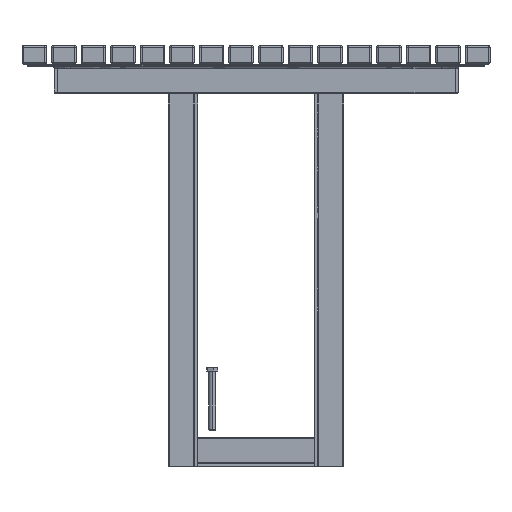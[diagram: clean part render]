
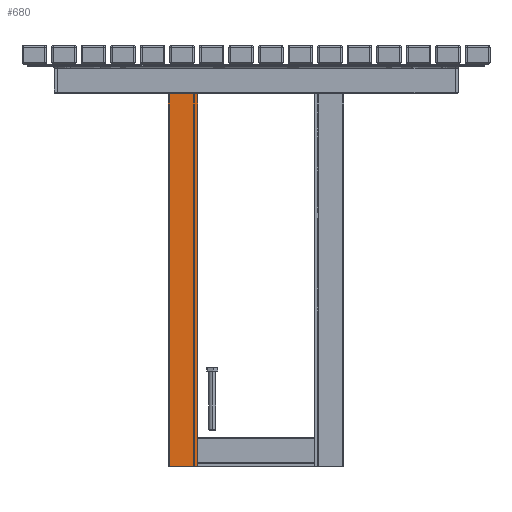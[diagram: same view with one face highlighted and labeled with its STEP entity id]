
A CAD part, left-side view. The second image highlights one B-rep face of the part: STEP entity #680.
In plain terms, the highlighted planar face has unit normal (-1, 0, 0).
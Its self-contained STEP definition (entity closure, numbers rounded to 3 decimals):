
#680=ADVANCED_FACE('',(#1544),#12438,.T.);
#1544=FACE_OUTER_BOUND('',#2442,.T.);
#2442=EDGE_LOOP('',(#3994,#3995,#3996,#3997));
#3994=ORIENTED_EDGE('',*,*,#7313,.T.);
#3995=ORIENTED_EDGE('',*,*,#7344,.F.);
#3996=ORIENTED_EDGE('',*,*,#7318,.T.);
#3997=ORIENTED_EDGE('',*,*,#7319,.T.);
#7313=EDGE_CURVE('',#10926,#10925,#10070,.T.);
#7318=EDGE_CURVE('',#10933,#10934,#10075,.T.);
#7319=EDGE_CURVE('',#10934,#10926,#10076,.T.);
#7344=EDGE_CURVE('',#10933,#10925,#10092,.T.);
#10070=B_SPLINE_CURVE_WITH_KNOTS('',1,(#15713,#15714),.UNSPECIFIED.,.F.,
 .F.,(2,2),(-5.,0.),.UNSPECIFIED.);
#10075=B_SPLINE_CURVE_WITH_KNOTS('',1,(#15723,#15724),.UNSPECIFIED.,.F.,
 .F.,(2,2),(0.,5.),.UNSPECIFIED.);
#10076=B_SPLINE_CURVE_WITH_KNOTS('',1,(#15725,#15726),.UNSPECIFIED.,.F.,
 .F.,(2,2),(0.,68.3),.UNSPECIFIED.);
#10092=B_SPLINE_CURVE_WITH_KNOTS('',1,(#15781,#15782,#15783),
 .UNSPECIFIED.,.F.,.F.,(2,1,2),(0.,63.3,68.3),.UNSPECIFIED.);
#10925=VERTEX_POINT('',#15692);
#10926=VERTEX_POINT('',#15693);
#10933=VERTEX_POINT('',#15700);
#10934=VERTEX_POINT('',#15701);
#12438=PLANE('',#12704);
#12704=AXIS2_PLACEMENT_3D('',#15664,#12954,$);
#12954=DIRECTION('',(-1.,0.,0.));
#15664=CARTESIAN_POINT('',(211.5,499.49,-0.01));
#15692=CARTESIAN_POINT('',(211.5,499.5,0.));
#15693=CARTESIAN_POINT('',(211.5,549.5,0.));
#15700=CARTESIAN_POINT('',(211.5,499.5,683.));
#15701=CARTESIAN_POINT('',(211.5,549.5,683.));
#15713=CARTESIAN_POINT('',(211.5,549.5,0.));
#15714=CARTESIAN_POINT('',(211.5,499.5,0.));
#15723=CARTESIAN_POINT('',(211.5,499.5,683.));
#15724=CARTESIAN_POINT('',(211.5,549.5,683.));
#15725=CARTESIAN_POINT('',(211.5,549.5,683.));
#15726=CARTESIAN_POINT('',(211.5,549.5,0.));
#15781=CARTESIAN_POINT('',(211.5,499.5,683.));
#15782=CARTESIAN_POINT('',(211.5,499.5,50.));
#15783=CARTESIAN_POINT('',(211.5,499.5,0.));
